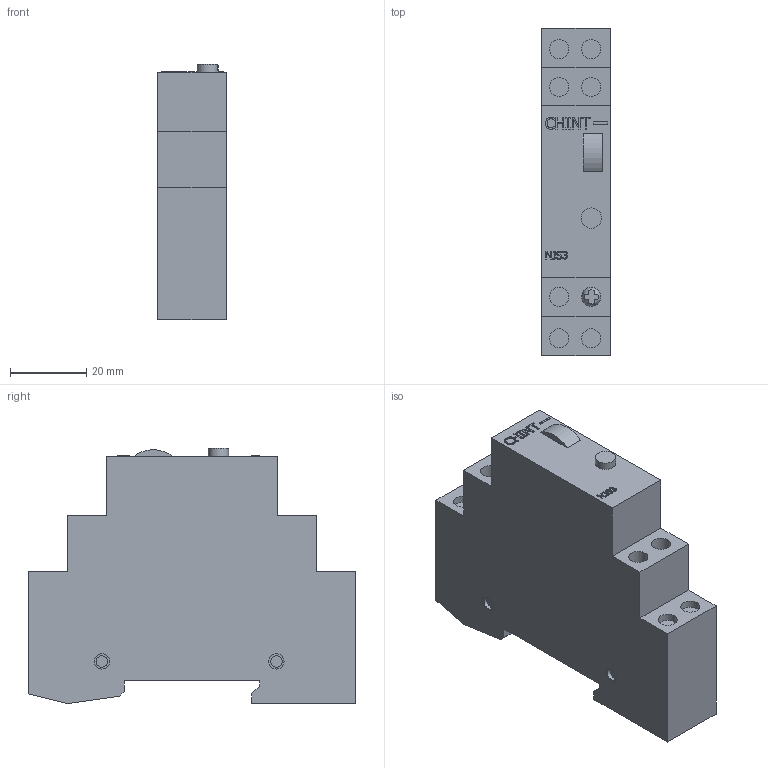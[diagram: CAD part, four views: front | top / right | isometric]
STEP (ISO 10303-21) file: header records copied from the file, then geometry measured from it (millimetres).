
FILE_DESCRIPTION(/* description */ (''),/* implementation_level */ '2;1');
FILE_NAME(/* name */ 'D:\CHINT\NJS3\Реле времени NJS3 (CHINT).stp',/* time_stamp */ '2017-09-30T15:39:54+04:00',/* author */ ('RSagdiev'),/* organization */ (''),/* preprocessor_version */ 'ST-DEVELOPER v16.5',/* originating_system */ 'Autodesk Inventor 2017',/* authorisation */ '');
FILE_SCHEMA (('AUTOMOTIVE_DESIGN { 1 0 10303 214 3 1 1 }'));
Length unit declared in the file: millimetre
Products named in the file (1): Реле \X2\043204400435043C0435043D0438
\X0\ NJS3 (CHINT)
Bounding box: 18 x 86 x 67 mm (x, y, z)
Surface area: 31163.1 mm2
Topology: 10 solids, 10 shells, 292 faces, 709 edges, 479 vertices
Faces by surface type: plane 196, bspline 58, cylinder 38
Full cylindrical faces by diameter (mm): 3 x4, 4 x12, 5 x18, 5.334 x3
Entity records: 8908 total; most frequent: CARTESIAN_POINT 2446, ORIENTED_EDGE 1332, DIRECTION 1107, EDGE_CURVE 666, VERTEX_POINT 469, LINE 463, VECTOR 463, EDGE_LOOP 375
